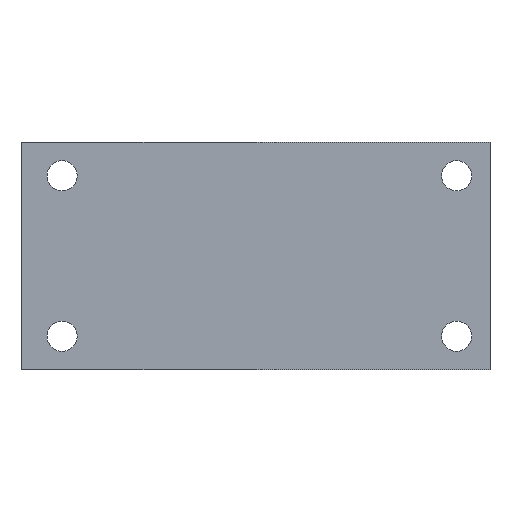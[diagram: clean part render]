
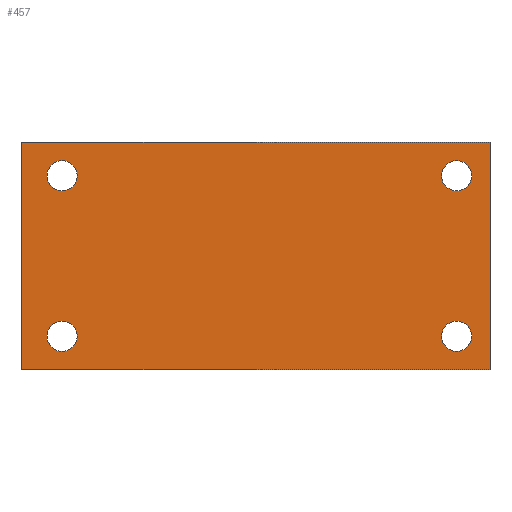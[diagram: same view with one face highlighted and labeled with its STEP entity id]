
A CAD part, front view. The second image highlights one B-rep face of the part: STEP entity #457.
In plain terms, the highlighted planar face has unit normal (0, -1, 0).
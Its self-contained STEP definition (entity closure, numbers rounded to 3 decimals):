
#457=ADVANCED_FACE('',(#877,#878,#879,#880,#881),#882,.F.);
#877=FACE_OUTER_BOUND('',#1310,.T.);
#878=FACE_BOUND('',#1311,.T.);
#879=FACE_BOUND('',#1312,.T.);
#880=FACE_BOUND('',#1313,.T.);
#881=FACE_BOUND('',#1314,.T.);
#882=PLANE('',#1315);
#1310=EDGE_LOOP('',(#2695,#2696,#2697,#2698));
#1311=EDGE_LOOP('',(#2699));
#1312=EDGE_LOOP('',(#2700));
#1313=EDGE_LOOP('',(#2701));
#1314=EDGE_LOOP('',(#2702));
#1315=AXIS2_PLACEMENT_3D('',#2703,#2704,#2705);
#2695=ORIENTED_EDGE('',*,*,#3159,.T.);
#2696=ORIENTED_EDGE('',*,*,#3160,.F.);
#2697=ORIENTED_EDGE('',*,*,#3150,.F.);
#2698=ORIENTED_EDGE('',*,*,#3141,.T.);
#2699=ORIENTED_EDGE('',*,*,#3145,.F.);
#2700=ORIENTED_EDGE('',*,*,#3155,.F.);
#2701=ORIENTED_EDGE('',*,*,#3153,.F.);
#2702=ORIENTED_EDGE('',*,*,#3154,.F.);
#2703=CARTESIAN_POINT('',(0.0,0.0,17.0));
#2704=DIRECTION('',(-0.0,1.0,0.0));
#2705=DIRECTION('',(1.0,0.0,0.0));
#3141=EDGE_CURVE('',#3856,#3854,#3857,.T.);
#3145=EDGE_CURVE('',#3863,#3863,#3864,.T.);
#3150=EDGE_CURVE('',#3856,#3873,#3874,.T.);
#3153=EDGE_CURVE('',#3878,#3878,#3879,.T.);
#3154=EDGE_CURVE('',#3880,#3880,#3881,.T.);
#3155=EDGE_CURVE('',#3882,#3882,#3883,.T.);
#3159=EDGE_CURVE('',#3854,#3890,#3891,.T.);
#3160=EDGE_CURVE('',#3873,#3890,#3892,.T.);
#3854=VERTEX_POINT('',#5014);
#3856=VERTEX_POINT('',#5017);
#3857=LINE('',#5018,#5019);
#3863=VERTEX_POINT('',#5026);
#3864=CIRCLE('',#5027,2.25);
#3873=VERTEX_POINT('',#5036);
#3874=LINE('',#5037,#5038);
#3878=VERTEX_POINT('',#5043);
#3879=CIRCLE('',#5044,2.25);
#3880=VERTEX_POINT('',#5045);
#3881=CIRCLE('',#5046,2.25);
#3882=VERTEX_POINT('',#5047);
#3883=CIRCLE('',#5048,2.25);
#3890=VERTEX_POINT('',#5055);
#3891=LINE('',#5056,#5057);
#3892=LINE('',#5058,#5059);
#5014=CARTESIAN_POINT('',(0.0,0.0,-17.0));
#5017=CARTESIAN_POINT('',(0.0,0.0,17.0));
#5018=CARTESIAN_POINT('',(0.0,0.0,17.0));
#5019=VECTOR('',#5633,1.0);
#5026=CARTESIAN_POINT('',(6.0,0.0,14.25));
#5027=AXIS2_PLACEMENT_3D('',#5641,#5642,#5643);
#5036=CARTESIAN_POINT('',(70.0,0.0,17.0));
#5037=CARTESIAN_POINT('',(0.0,0.0,17.0));
#5038=VECTOR('',#5656,1.0);
#5043=CARTESIAN_POINT('',(6.0,0.0,-9.75));
#5044=AXIS2_PLACEMENT_3D('',#5661,#5662,#5663);
#5045=CARTESIAN_POINT('',(65.0,0.0,14.25));
#5046=AXIS2_PLACEMENT_3D('',#5664,#5665,#5666);
#5047=CARTESIAN_POINT('',(65.0,0.0,-9.75));
#5048=AXIS2_PLACEMENT_3D('',#5667,#5668,#5669);
#5055=CARTESIAN_POINT('',(70.0,0.0,-17.0));
#5056=CARTESIAN_POINT('',(0.0,0.0,-17.0));
#5057=VECTOR('',#5679,1.0);
#5058=CARTESIAN_POINT('',(70.0,0.0,17.0));
#5059=VECTOR('',#5680,1.0);
#5633=DIRECTION('',(0.0,0.0,-1.0));
#5641=CARTESIAN_POINT('',(6.0,0.0,12.0));
#5642=DIRECTION('',(0.0,-1.0,0.0));
#5643=DIRECTION('',(0.0,0.0,1.0));
#5656=DIRECTION('',(1.0,0.0,0.0));
#5661=CARTESIAN_POINT('',(6.0,0.0,-12.0));
#5662=DIRECTION('',(0.0,-1.0,0.0));
#5663=DIRECTION('',(0.0,0.0,1.0));
#5664=CARTESIAN_POINT('',(65.0,0.0,12.0));
#5665=DIRECTION('',(0.0,-1.0,0.0));
#5666=DIRECTION('',(0.0,0.0,1.0));
#5667=CARTESIAN_POINT('',(65.0,0.0,-12.0));
#5668=DIRECTION('',(0.0,-1.0,0.0));
#5669=DIRECTION('',(0.0,0.0,1.0));
#5679=DIRECTION('',(1.0,0.0,0.0));
#5680=DIRECTION('',(0.0,0.0,-1.0));
